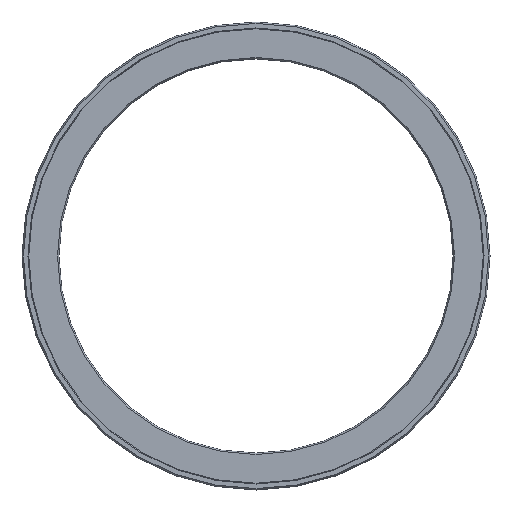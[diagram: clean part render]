
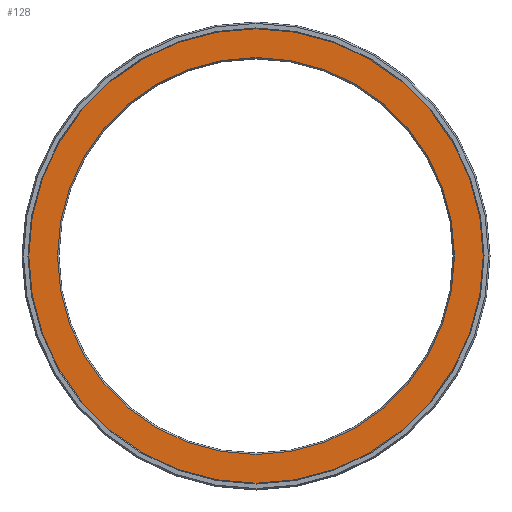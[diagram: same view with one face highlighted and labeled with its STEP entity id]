
A CAD part, left-side view. The second image highlights one B-rep face of the part: STEP entity #128.
In plain terms, the highlighted planar face has unit normal (-1, 0, 0).
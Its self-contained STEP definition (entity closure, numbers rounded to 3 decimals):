
#112=PLANE('',#329);
#128=ADVANCED_FACE('',(#163,#164),#112,.T.);
#163=FACE_BOUND('',#199,.T.);
#164=FACE_BOUND('',#200,.T.);
#199=EDGE_LOOP('',(#235));
#200=EDGE_LOOP('',(#236));
#235=ORIENTED_EDGE('',*,*,#276,.T.);
#236=ORIENTED_EDGE('',*,*,#275,.F.);
#257=VERTEX_POINT('',#454);
#258=VERTEX_POINT('',#457);
#275=EDGE_CURVE('',#257,#257,#293,.T.);
#276=EDGE_CURVE('',#258,#258,#294,.T.);
#293=CIRCLE('',#326,92.25);
#294=CIRCLE('',#328,80.577);
#326=AXIS2_PLACEMENT_3D('',#453,#394,#395);
#328=AXIS2_PLACEMENT_3D('',#456,#398,#399);
#329=AXIS2_PLACEMENT_3D('',#458,#400,#401);
#394=DIRECTION('',(1.,0.,0.));
#395=DIRECTION('',(0.,0.,-1.));
#398=DIRECTION('',(1.,0.,0.));
#399=DIRECTION('',(0.,0.,1.));
#400=DIRECTION('',(-1.,0.,0.));
#401=DIRECTION('',(0.,0.,1.));
#453=CARTESIAN_POINT('',(0.,0.,0.));
#454=CARTESIAN_POINT('',(0.,0.,-92.25));
#456=CARTESIAN_POINT('',(0.,0.,0.));
#457=CARTESIAN_POINT('',(0.,0.,80.577));
#458=CARTESIAN_POINT('',(0.,92.25,0.));
